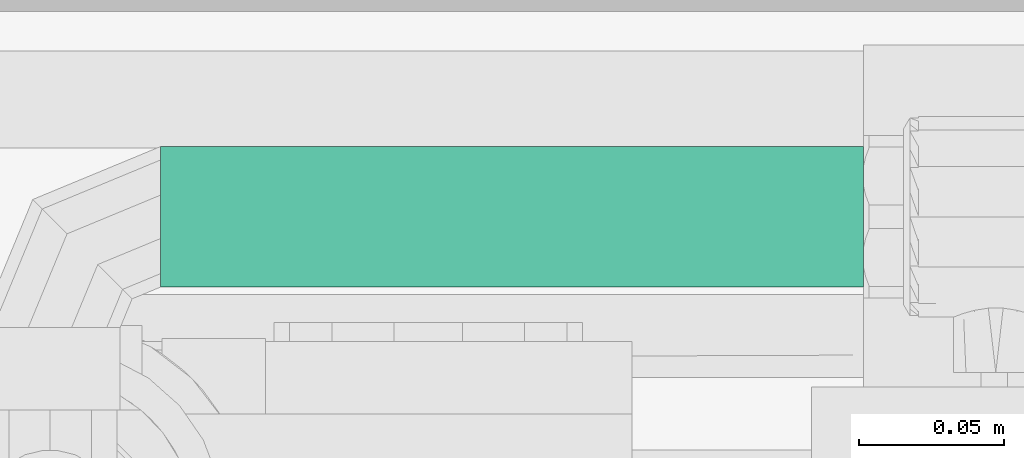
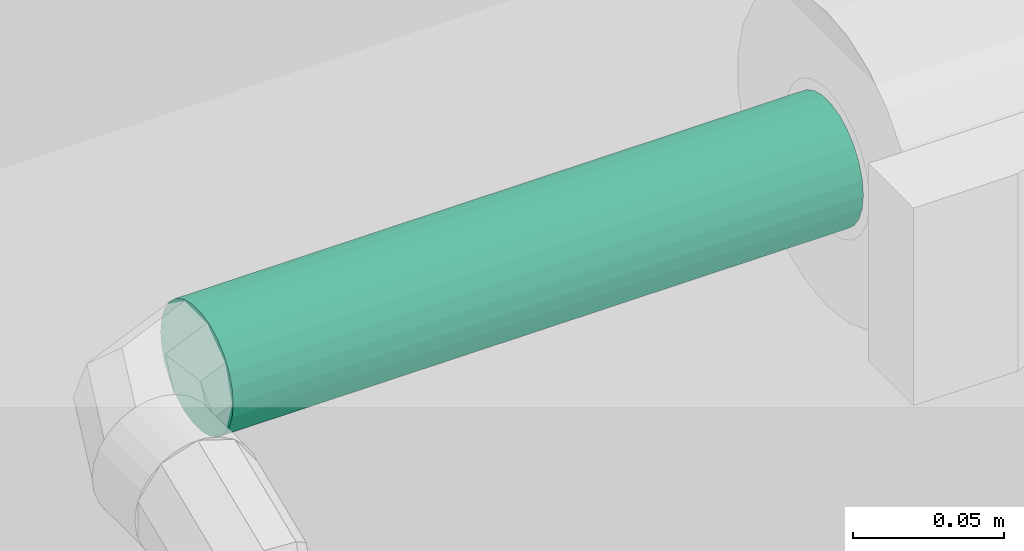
# One storey, part 77 of 94: 1 flow segment.
"""IFC2X3 building model written with IfcOpenShell, lengths in millimetres."""

from ifc_helpers import new_model, entity, si_unit, converted_unit, derived_unit, direction, frame, origin, origin_2d_with_axis, place, context, subcontext, project, spatial, circle, extrude, type_object, element, save


model = new_model("IFC2X3")

# Units and contexts
model_context = context("Model", 3, precision=0.01, world=origin(), true_north=direction((6.123031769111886e-17, 1.0)))
body_context = subcontext(model_context, "Body", "Model", "MODEL_VIEW")
ifc_project = project(units=[si_unit("LENGTHUNIT", "METRE", prefix="MILLI"), si_unit("AREAUNIT", "SQUARE_METRE"), si_unit("VOLUMEUNIT", "CUBIC_METRE"), converted_unit("PLANEANGLEUNIT", "DEGREE", entity("IfcRatioMeasure", 0.017453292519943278), si_unit("PLANEANGLEUNIT", "RADIAN"), dimensions=[0, 0, 0, 0, 0, 0, 0]), si_unit("MASSUNIT", "GRAM", prefix="KILO"), derived_unit("MASSDENSITYUNIT", [(si_unit("MASSUNIT", "GRAM", prefix="KILO"), 1), (si_unit("LENGTHUNIT", "METRE"), -3)]), derived_unit("IONCONCENTRATIONUNIT", [(si_unit("MASSUNIT", "GRAM", prefix="KILO"), 1), (si_unit("LENGTHUNIT", "METRE"), -3)]), derived_unit("MOMENTOFINERTIAUNIT", [(si_unit("LENGTHUNIT", "METRE"), 4)]), si_unit("TIMEUNIT", "SECOND"), si_unit("FREQUENCYUNIT", "HERTZ"), si_unit("THERMODYNAMICTEMPERATUREUNIT", "DEGREE_CELSIUS"), derived_unit("THERMALTRANSMITTANCEUNIT", [(si_unit("MASSUNIT", "GRAM", prefix="KILO"), 1), (si_unit("THERMODYNAMICTEMPERATUREUNIT", "KELVIN"), -1), (si_unit("TIMEUNIT", "SECOND"), -3)]), derived_unit("THERMALCONDUCTANCEUNIT", [(si_unit("MASSUNIT", "GRAM", prefix="KILO"), 1), (si_unit("THERMODYNAMICTEMPERATUREUNIT", "KELVIN"), -1), (si_unit("TIMEUNIT", "SECOND"), -3), (si_unit("LENGTHUNIT", "METRE"), 1)]), derived_unit("VOLUMETRICFLOWRATEUNIT", [(si_unit("LENGTHUNIT", "METRE"), 3), (si_unit("TIMEUNIT", "SECOND"), -1)]), derived_unit("MASSFLOWRATEUNIT", [(si_unit("MASSUNIT", "GRAM", prefix="KILO"), 1), (si_unit("TIMEUNIT", "SECOND"), -1)]), derived_unit("ROTATIONALFREQUENCYUNIT", [(si_unit("TIMEUNIT", "SECOND"), -1)]), si_unit("ELECTRICCURRENTUNIT", "AMPERE"), si_unit("ELECTRICVOLTAGEUNIT", "VOLT"), si_unit("POWERUNIT", "WATT"), si_unit("FORCEUNIT", "NEWTON", prefix="KILO"), si_unit("ILLUMINANCEUNIT", "LUX"), si_unit("LUMINOUSFLUXUNIT", "LUMEN"), si_unit("LUMINOUSINTENSITYUNIT", "CANDELA"), derived_unit("USERDEFINED", [(si_unit("MASSUNIT", "GRAM", prefix="KILO"), -1), (si_unit("LENGTHUNIT", "METRE"), -2), (si_unit("TIMEUNIT", "SECOND"), 3), (si_unit("LUMINOUSFLUXUNIT", "LUMEN"), 1)]), derived_unit("USERDEFINED", [(si_unit("MASSUNIT", "GRAM", prefix="KILO"), 1), (si_unit("TIMEUNIT", "SECOND"), -3), (si_unit("LENGTHUNIT", "METRE"), 3), (si_unit("ELECTRICCURRENTUNIT", "AMPERE"), -2)]), derived_unit("SOUNDPOWERUNIT", [(si_unit("MASSUNIT", "GRAM", prefix="KILO"), 1), (si_unit("TIMEUNIT", "SECOND"), -3), (si_unit("LENGTHUNIT", "METRE"), 2)]), derived_unit("SOUNDPRESSUREUNIT", [(si_unit("MASSUNIT", "GRAM", prefix="KILO"), 1), (si_unit("LENGTHUNIT", "METRE"), -1), (si_unit("TIMEUNIT", "SECOND"), -2)]), derived_unit("LINEARVELOCITYUNIT", [(si_unit("LENGTHUNIT", "METRE"), 1), (si_unit("TIMEUNIT", "SECOND"), -1)]), si_unit("PRESSUREUNIT", "PASCAL"), derived_unit("USERDEFINED", [(si_unit("MASSUNIT", "GRAM", prefix="KILO"), 1), (si_unit("LENGTHUNIT", "METRE"), -2), (si_unit("TIMEUNIT", "SECOND"), -2)]), derived_unit("LINEARFORCEUNIT", [(si_unit("MASSUNIT", "GRAM", prefix="KILO"), 1), (si_unit("TIMEUNIT", "SECOND"), -2)]), derived_unit("PLANARFORCEUNIT", [(si_unit("MASSUNIT", "GRAM", prefix="KILO"), 1), (si_unit("LENGTHUNIT", "METRE"), -1), (si_unit("TIMEUNIT", "SECOND"), -2)]), derived_unit("SPECIFICHEATCAPACITYUNIT", [(si_unit("THERMODYNAMICTEMPERATUREUNIT", "KELVIN"), -1), (si_unit("LENGTHUNIT", "METRE"), 2), (si_unit("TIMEUNIT", "SECOND"), -2)]), derived_unit("HEATINGVALUEUNIT", [(si_unit("LENGTHUNIT", "METRE"), 2), (si_unit("TIMEUNIT", "SECOND"), -2)]), derived_unit("VAPORPERMEABILITYUNIT", [(si_unit("LENGTHUNIT", "METRE"), -1), (si_unit("TIMEUNIT", "SECOND"), 1)]), derived_unit("DYNAMICVISCOSITYUNIT", [(si_unit("MASSUNIT", "GRAM", prefix="KILO"), 1), (si_unit("TIMEUNIT", "SECOND"), -1), (si_unit("LENGTHUNIT", "METRE"), -1)]), derived_unit("THERMALEXPANSIONCOEFFICIENTUNIT", [(si_unit("THERMODYNAMICTEMPERATUREUNIT", "KELVIN"), -1)]), derived_unit("MODULUSOFELASTICITYUNIT", [(si_unit("MASSUNIT", "GRAM", prefix="KILO"), 1), (si_unit("LENGTHUNIT", "METRE"), -1), (si_unit("TIMEUNIT", "SECOND"), -2)]), derived_unit("ISOTHERMALMOISTURECAPACITYUNIT", [(si_unit("LENGTHUNIT", "METRE"), 3), (si_unit("MASSUNIT", "GRAM", prefix="KILO"), -1)]), derived_unit("MOISTUREDIFFUSIVITYUNIT", [(si_unit("TIMEUNIT", "SECOND"), -1), (si_unit("LENGTHUNIT", "METRE"), 2)])], contexts=[model_context])

# Site, building, storey
site_placement = place(None, origin())
site = spatial("IfcSite", under=ifc_project, at=site_placement, Name="Default", CompositionType="ELEMENT")
building_placement = place(site_placement, origin())
building = spatial("IfcBuilding", under=site, at=building_placement, CompositionType="ELEMENT")
storey_placement = place(building_placement, origin())
storey = spatial("IfcBuildingStorey", under=building, at=storey_placement, Name="Niveau 0", CompositionType="ELEMENT", Elevation=0.0)

# Flow segment
pipe_segment_type = type_object("IfcPipeSegmentType", Name="Canalisation:Bride acier", PredefinedType="NOTDEFINED")
flow_segment_placement = place(storey_placement, origin())
element("IfcFlowSegment", 1, at=flow_segment_placement, inside=storey, type_object=pipe_segment_type, Name="Canalisation:Bride acier", ObjectType="Canalisation:Bride acier", context=body_context, shape_type="SweptSolid", body=[
    extrude(circle(Radius=24.13, at=origin_2d_with_axis()), frame((-10334.14586555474, 10026.845624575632, 2950.0), z_axis=(1.0, 0.0, 0.0), x_axis=(0.0, -1.0, 0.0)), (0.0, 0.0, 1.0), 241.65358055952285),
])

save(model, "model.ifc")
